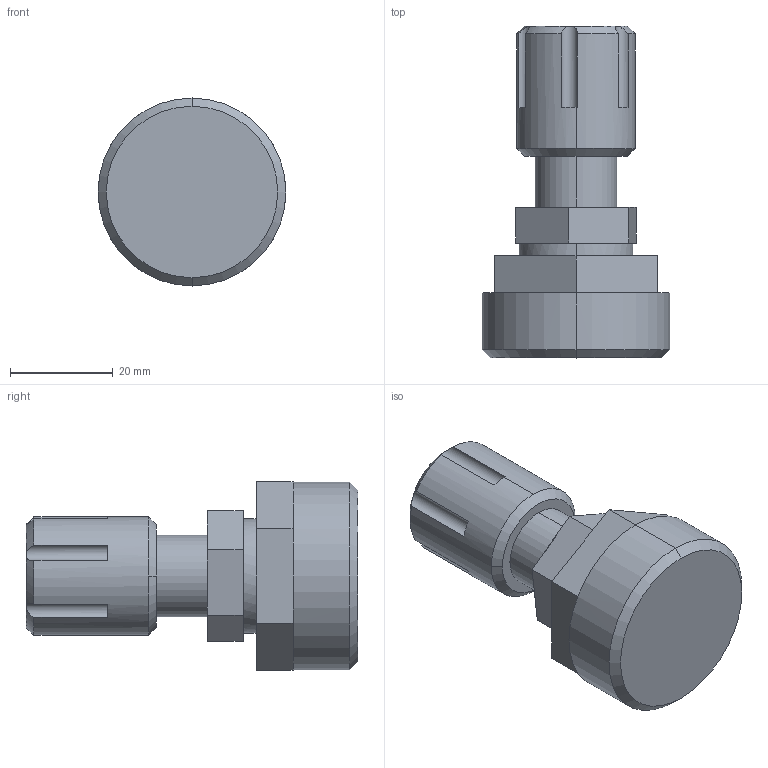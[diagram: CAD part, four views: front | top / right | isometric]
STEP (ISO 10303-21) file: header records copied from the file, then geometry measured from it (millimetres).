
FILE_DESCRIPTION (( 'STEP AP214' ), '1' );
FILE_NAME ('06-flaretek-with-top-mount-adapter.STEP', '2012-11-27T22:13:20', ( '' ), ( '' ), 'SwSTEP 2.0', 'SolidWorks 2012', '' );
FILE_SCHEMA (( 'AUTOMOTIVE_DESIGN' ));
Length unit declared in the file: inch
Products named in the file (1): 06-flaretek-with-top-mount-adapter
Bounding box: 36.6 x 64.67 x 36.66 mm (x, y, z)
Volume: 35228.3 mm3; surface area: 7959.1 mm2
Topology: 1 solids, 1 shells, 80 faces, 196 edges, 122 vertices
Faces by surface type: plane 48, cylinder 21, cone 11
Entity records: 3542 total; most frequent: CARTESIAN_POINT 530, DIRECTION 432, ORIENTED_EDGE 392, EDGE_CURVE 196, AXIS2_PLACEMENT_3D 170, VERTEX_POINT 122, LINE 92, VECTOR 92
